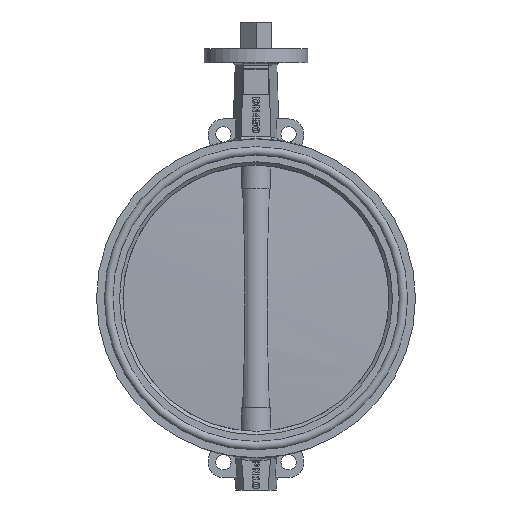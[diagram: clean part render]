
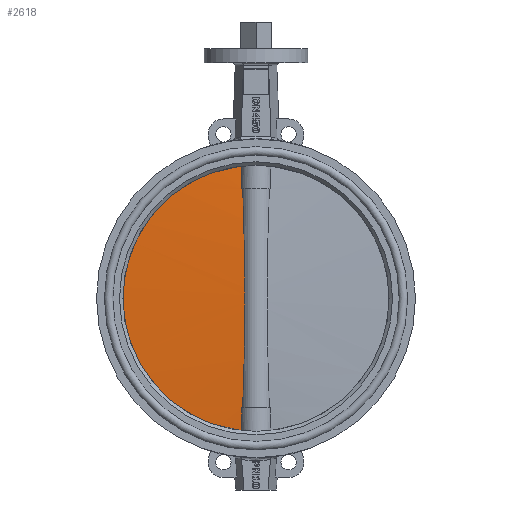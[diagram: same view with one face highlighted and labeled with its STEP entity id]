
A CAD part, left-side view. The second image highlights one B-rep face of the part: STEP entity #2618.
In plain terms, the highlighted spherical face has radius 3378.75 mm.
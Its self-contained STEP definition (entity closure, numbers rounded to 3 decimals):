
#2618=ADVANCED_FACE('',(#5970),#5972,.T.);
#5970=FACE_BOUND('',#5971,.T.);
#5971=EDGE_LOOP('',(#8484,#8485,#8486,#8487,#8488,#8489));
#5972=SPHERICAL_SURFACE('',#5973,3378.75);
#5973=AXIS2_PLACEMENT_3D('',#5974,#5975,#5976);
#5974=CARTESIAN_POINT('',(0.,-3360.75,0.));
#5975=DIRECTION('',(0.,-1.,0.));
#5976=DIRECTION('',(0.,0.,1.));
#8484=ORIENTED_EDGE('',*,*,#9497,.F.);
#8485=ORIENTED_EDGE('',*,*,#9509,.F.);
#8486=ORIENTED_EDGE('',*,*,#9510,.T.);
#8487=ORIENTED_EDGE('',*,*,#9511,.F.);
#8488=ORIENTED_EDGE('',*,*,#9480,.F.);
#8489=ORIENTED_EDGE('',*,*,#9508,.T.);
#9480=EDGE_CURVE('',#11145,#11146,#11147,.T.);
#9497=EDGE_CURVE('',#11178,#11163,#11180,.F.);
#9508=EDGE_CURVE('',#11145,#11163,#11195,.T.);
#9509=EDGE_CURVE('',#11196,#11178,#11197,.T.);
#9510=EDGE_CURVE('',#11196,#11198,#11199,.T.);
#9511=EDGE_CURVE('',#11146,#11198,#11200,.F.);
#11145=VERTEX_POINT('',#17224);
#11146=VERTEX_POINT('',#17225);
#11147=B_SPLINE_CURVE_WITH_KNOTS('',3,
(#17226,#17227,#17228,#17229,#17230,#17231,#17232),
.UNSPECIFIED.,.F.,.F.,
(4,1,1,1,4),
(0.,0.181,0.39,0.669,1.),
.UNSPECIFIED.);
#11163=VERTEX_POINT('',#17365);
#11178=VERTEX_POINT('',#17494);
#11180=B_SPLINE_CURVE_WITH_KNOTS('',3,
(#17499,#17500,#17501,#17502,#17503,#17504,#17505),
.UNSPECIFIED.,.F.,.F.,
(4,1,1,1,4),
(0.,0.181,0.39,0.669,1.),
.UNSPECIFIED.);
#11195=CIRCLE('',#17578,225.);
#11196=VERTEX_POINT('',#17582);
#11197=CIRCLE('',#17583,3373.676);
#11198=VERTEX_POINT('',#17587);
#11199=B_SPLINE_CURVE_WITH_KNOTS('',3,
(#17588,#17589,#17590,#17591,#17592,#17593,#17594,#17595,#17596,#17597,#17598,#17599,
#17600,#17601,#17602,#17603,#17604,#17605),
.UNSPECIFIED.,.F.,.F.,
(4,1,1,1,1,1,1,1,1,1,1,1,1,1,1,4),
(0.,0.053,0.106,0.157,0.224,0.304,
0.395,0.483,0.5,0.572,0.667,
0.751,0.823,0.881,0.94,1.),
.UNSPECIFIED.);
#11200=CIRCLE('',#17606,3373.676);
#17224=CARTESIAN_POINT('',(24.956,10.5,223.612));
#17225=CARTESIAN_POINT('',(23.836,12.842,185.1));
#17226=CARTESIAN_POINT('',(24.956,10.5,223.612));
#17227=CARTESIAN_POINT('',(24.891,10.655,221.284));
#17228=CARTESIAN_POINT('',(24.749,10.983,216.276));
#17229=CARTESIAN_POINT('',(24.502,11.526,207.686));
#17230=CARTESIAN_POINT('',(24.194,12.162,197.177));
#17231=CARTESIAN_POINT('',(23.962,12.608,189.348));
#17232=CARTESIAN_POINT('',(23.836,12.842,185.1));
#17365=CARTESIAN_POINT('',(24.956,10.5,-223.612));
#17494=CARTESIAN_POINT('',(23.836,12.842,-185.1));
#17499=CARTESIAN_POINT('',(24.956,10.5,-223.612));
#17500=CARTESIAN_POINT('',(24.891,10.655,-221.284));
#17501=CARTESIAN_POINT('',(24.749,10.983,-216.276));
#17502=CARTESIAN_POINT('',(24.502,11.526,-207.686));
#17503=CARTESIAN_POINT('',(24.194,12.162,-197.177));
#17504=CARTESIAN_POINT('',(23.962,12.608,-189.348));
#17505=CARTESIAN_POINT('',(23.836,12.842,-185.1));
#17578=AXIS2_PLACEMENT_3D('',#17579,#17580,#17581);
#17579=CARTESIAN_POINT('',(0.,10.5,0.));
#17580=DIRECTION('',(0.,1.,0.));
#17581=DIRECTION('',(0.111,0.,0.994));
#17582=CARTESIAN_POINT('',(22.497,12.851,-185.1));
#17583=AXIS2_PLACEMENT_3D('',#17584,#17585,#17586);
#17584=CARTESIAN_POINT('',(0.,-3360.75,-185.1));
#17585=DIRECTION('',(0.,0.,-1.));
#17586=DIRECTION('',(0.007,1.,0.));
#17587=CARTESIAN_POINT('',(22.497,12.851,185.1));
#17588=CARTESIAN_POINT('',(22.497,12.851,-185.1));
#17589=CARTESIAN_POINT('',(22.292,13.211,-178.555));
#17590=CARTESIAN_POINT('',(21.881,13.89,-165.547));
#17591=CARTESIAN_POINT('',(21.282,14.789,-146.151));
#17592=CARTESIAN_POINT('',(20.661,15.645,-125.062));
#17593=CARTESIAN_POINT('',(20.002,16.48,-100.586));
#17594=CARTESIAN_POINT('',(19.344,17.244,-71.188));
#17595=CARTESIAN_POINT('',(18.852,17.775,-39.173));
#17596=CARTESIAN_POINT('',(18.697,17.937,-14.957));
#17597=CARTESIAN_POINT('',(18.677,17.956,6.833));
#17598=CARTESIAN_POINT('',(18.764,17.867,29.457));
#17599=CARTESIAN_POINT('',(19.149,17.459,60.444));
#17600=CARTESIAN_POINT('',(19.78,16.745,91.483));
#17601=CARTESIAN_POINT('',(20.46,15.908,117.932));
#17602=CARTESIAN_POINT('',(21.132,15.004,141.229));
#17603=CARTESIAN_POINT('',(21.801,14.019,163.009));
#17604=CARTESIAN_POINT('',(22.264,13.259,177.684));
#17605=CARTESIAN_POINT('',(22.497,12.851,185.1));
#17606=AXIS2_PLACEMENT_3D('',#17607,#17608,#17609);
#17607=CARTESIAN_POINT('',(0.,-3360.75,185.1));
#17608=DIRECTION('',(0.,0.,-1.));
#17609=DIRECTION('',(0.007,1.,0.));
